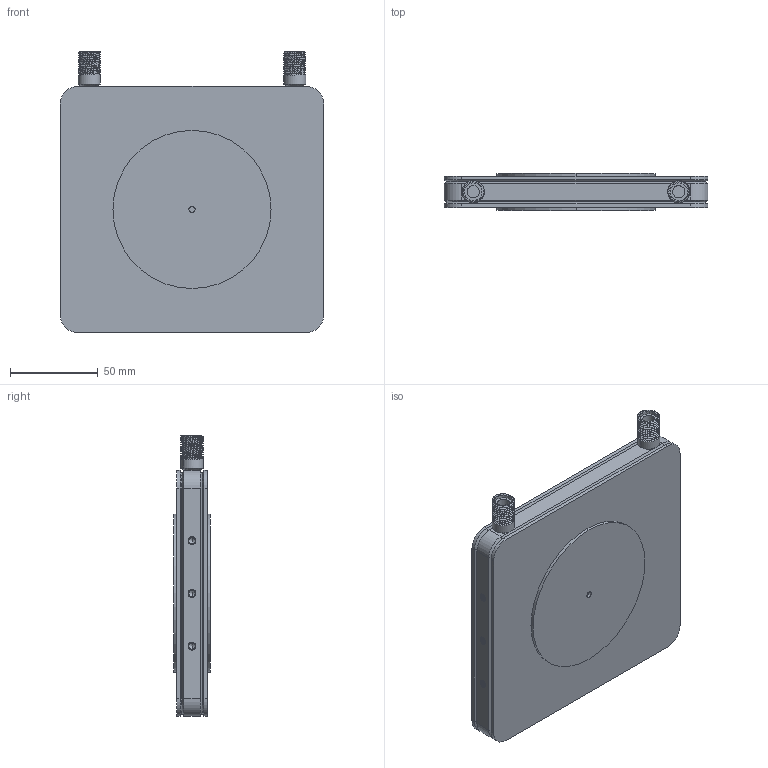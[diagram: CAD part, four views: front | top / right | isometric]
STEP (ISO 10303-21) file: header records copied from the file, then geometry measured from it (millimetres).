
FILE_DESCRIPTION (( 'STEP AP214' ), '1' );
FILE_NAME ('迓鑰90_摎蓲瀇僔蠂罻.STEP', '2025-08-06T15:13:33', ( '' ), ( '' ), 'SwSTEP 2.0', 'SolidWorks 2024', '' );
FILE_SCHEMA (( 'AUTOMOTIVE_DESIGN' ));
Length unit declared in the file: millimetre
Products named in the file (4): кастомный_ниппель; корпус; крышка верхняя; НОЖ_90_без_пластика
Assembly tree (5 placements, depth 2):
  НОЖ_90_без_пластика
    корпус
    кастомный_ниппель  x2
    крышка верхняя  x2
Bounding box: 150 x 21 x 159.85 mm (x, y, z)
Volume: 296951.2 mm3; surface area: 170913 mm2
Topology: 5 solids, 5 shells, 1150 faces, 3154 edges, 2028 vertices
Faces by surface type: cylinder 660, plane 398, cone 40, bspline 36, torus 16
Entity records: 42779 total; most frequent: CARTESIAN_POINT 23642, ORIENTED_EDGE 4400, DIRECTION 3634, EDGE_CURVE 2200, VERTEX_POINT 1421, AXIS2_PLACEMENT_3D 1263, VECTOR 1108, LINE 1108
